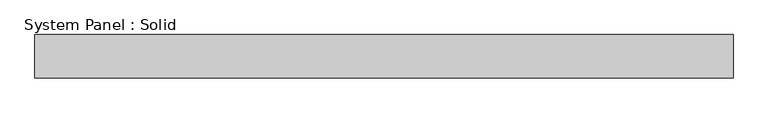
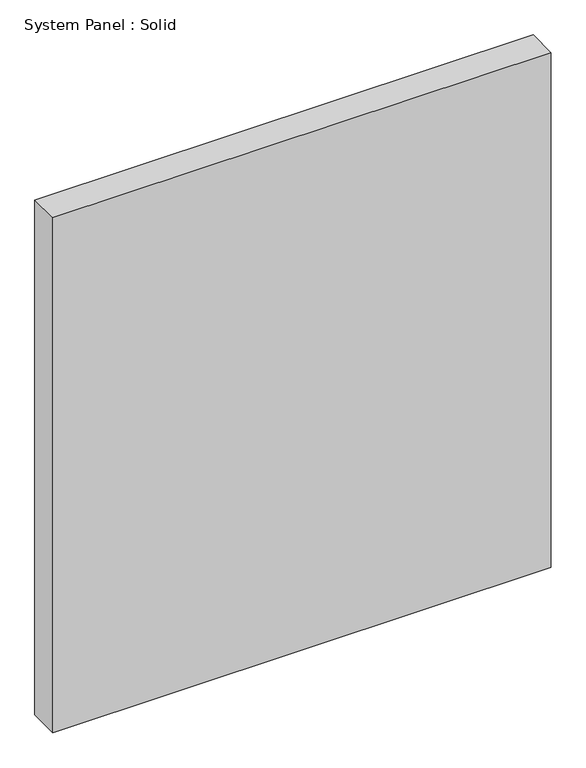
"""IFC4 building model written with IfcOpenShell, lengths in millimetres: plate geometry, System Panel : Solid."""

from ifc_helpers import new_model, si_unit, origin, origin_with_axes, place, context, project, spatial, polyline, outline, extrude, source, transform, mapped, element, save


def system_panel_solid_9f856546(model_context):
    return source(origin(), model_context, "Body", "SweptSolid", [
        extrude(outline(polyline([(514.35, -19.05), (-514.35, -19.05), (-514.35, 44.45), (514.35, 44.45), (514.35, -19.05)])), origin_with_axes(), (0.0, 0.0, 1.0), 1123.95),
    ])


if __name__ == "__main__":
    model = new_model("IFC4")
    model_context = context("Model", 3, world=origin())
    ifc_project = project(units=[si_unit("LENGTHUNIT", "METRE", prefix="MILLI")], contexts=[model_context])
    site = spatial("IfcSite", under=ifc_project)
    building = spatial("IfcBuilding", under=site)
    placement = place(None, origin())
    system_panel_solid_shape = system_panel_solid_9f856546(model_context)
    element("IfcPlate", 1, ObjectType="System Panel : Solid", at=placement, inside=building, context=model_context, shape_type="MappedRepresentation", body=[
        mapped(system_panel_solid_shape, transform((0.0, 0.0, 0.0), x_axis=(1.0, 0.0, 0.0), y_axis=(0.0, 1.0, 0.0), z_axis=(0.0, 0.0, 1.0))),
    ])
    save(model, "model.ifc")
